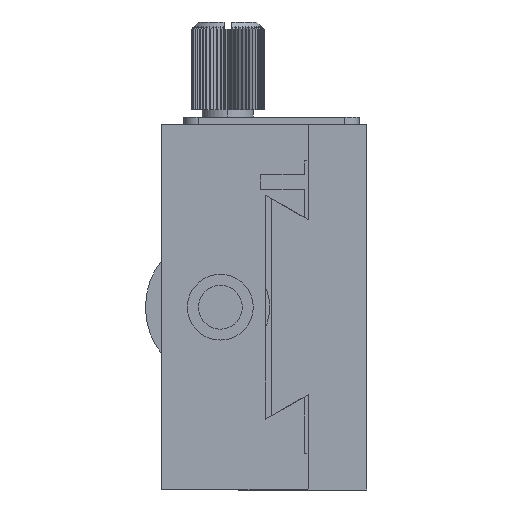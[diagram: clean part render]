
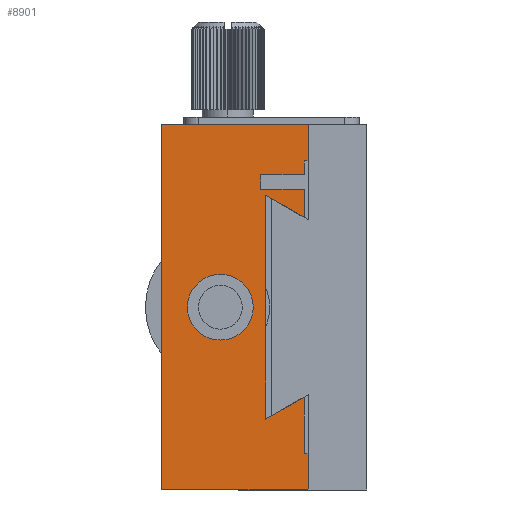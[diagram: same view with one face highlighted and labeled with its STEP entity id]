
A CAD part, left-side view. The second image highlights one B-rep face of the part: STEP entity #8901.
In plain terms, the highlighted planar face has unit normal (-1, 0, 0).
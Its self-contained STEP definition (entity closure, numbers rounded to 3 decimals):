
#139 = EDGE_CURVE ( 'NONE', #11944, #11951, #4894, .T. ) ;
#1978 = AXIS2_PLACEMENT_3D ( 'NONE', #5530, #5534, #5532 ) ;
#2154 = ORIENTED_EDGE ( 'NONE', *, *, #12491, .F. ) ;
#2157 = ORIENTED_EDGE ( 'NONE', *, *, #12490, .T. ) ;
#2160 = ORIENTED_EDGE ( 'NONE', *, *, #12493, .T. ) ;
#2161 = ORIENTED_EDGE ( 'NONE', *, *, #12488, .F. ) ;
#2162 = ORIENTED_EDGE ( 'NONE', *, *, #12486, .T. ) ;
#2164 = ORIENTED_EDGE ( 'NONE', *, *, #12492, .F. ) ;
#2166 = ORIENTED_EDGE ( 'NONE', *, *, #12484, .F. ) ;
#2170 = ORIENTED_EDGE ( 'NONE', *, *, #12481, .T. ) ;
#2177 = ORIENTED_EDGE ( 'NONE', *, *, #12482, .F. ) ;
#2187 = ORIENTED_EDGE ( 'NONE', *, *, #12489, .F. ) ;
#2198 = ORIENTED_EDGE ( 'NONE', *, *, #12448, .F. ) ;
#2199 = ORIENTED_EDGE ( 'NONE', *, *, #12487, .F. ) ;
#2200 = ORIENTED_EDGE ( 'NONE', *, *, #12483, .F. ) ;
#2201 = ORIENTED_EDGE ( 'NONE', *, *, #12462, .T. ) ;
#2203 = ORIENTED_EDGE ( 'NONE', *, *, #12494, .T. ) ;
#2204 = ORIENTED_EDGE ( 'NONE', *, *, #12485, .T. ) ;
#2205 = ORIENTED_EDGE ( 'NONE', *, *, #139, .T. ) ;
#2208 = ORIENTED_EDGE ( 'NONE', *, *, #12463, .F. ) ;
#2755 = EDGE_LOOP ( 'NONE', ( #2170, #2208, #2198, #2177, #2200, #2166, #2204, #2162, #2199, #2161, #2187, #2157, #2154, #2164, #2160, #2203 ) ) ;
#2756 = EDGE_LOOP ( 'NONE', ( #2205, #2201 ) ) ;
#4894 = CIRCLE ( 'NONE', #1978, 4.5 ) ;
#5530 = CARTESIAN_POINT ( 'NONE',  ( -38.891, 9.382, 0. ) ) ;
#5532 = DIRECTION ( 'NONE',  ( 0., 0., -1. ) ) ;
#5534 = DIRECTION ( 'NONE',  ( 1., 0., 0. ) ) ;
#6146 = CARTESIAN_POINT ( 'NONE',  ( -38.891, -2.118, 16.112 ) ) ;
#6147 = CARTESIAN_POINT ( 'NONE',  ( -38.891, 3.882, 16.112 ) ) ;
#6148 = CARTESIAN_POINT ( 'NONE',  ( -38.891, -2.118, -20. ) ) ;
#6149 = CARTESIAN_POINT ( 'NONE',  ( -38.891, -2.118, 12.252 ) ) ;
#6150 = CARTESIAN_POINT ( 'NONE',  ( -38.891, 17.382, -25. ) ) ;
#6151 = CARTESIAN_POINT ( 'NONE',  ( -38.891, -2.118, 20. ) ) ;
#6157 = CARTESIAN_POINT ( 'NONE',  ( -38.891, -2.618, -20. ) ) ;
#6175 = CARTESIAN_POINT ( 'NONE',  ( -38.891, 17.382, 25. ) ) ;
#6298 = CARTESIAN_POINT ( 'NONE',  ( -38.891, 3.882, 18.112 ) ) ;
#6299 = CARTESIAN_POINT ( 'NONE',  ( -38.891, 3.182, 15.312 ) ) ;
#6300 = CARTESIAN_POINT ( 'NONE',  ( -38.891, 3.182, -15.312 ) ) ;
#6306 = CARTESIAN_POINT ( 'NONE',  ( -38.891, -2.618, -25. ) ) ;
#6324 = CARTESIAN_POINT ( 'NONE',  ( -38.891, -2.618, 25. ) ) ;
#6549 = CARTESIAN_POINT ( 'NONE',  ( -38.891, 9.382, 4.5 ) ) ;
#6556 = CARTESIAN_POINT ( 'NONE',  ( -38.891, 9.382, -4.5 ) ) ;
#6933 = AXIS2_PLACEMENT_3D ( 'NONE', #9308, #9313, #9315 ) ;
#7026 = AXIS2_PLACEMENT_3D ( 'NONE', #10333, #10334, #10335 ) ;
#8037 = FACE_OUTER_BOUND ( 'NONE', #2755, .T. ) ;
#8040 = FACE_BOUND ( 'NONE', #2756, .T. ) ;
#8241 = LINE ( 'NONE', #10213, #8296 ) ;
#8296 = VECTOR ( 'NONE', #10268, 1000. ) ;
#8311 = CIRCLE ( 'NONE', #7026, 4.5 ) ;
#8313 = LINE ( 'NONE', #10326, #8315 ) ;
#8315 = VECTOR ( 'NONE', #10327, 1000. ) ;
#8341 = LINE ( 'NONE', #10362, #8352 ) ;
#8347 = LINE ( 'NONE', #10371, #8350 ) ;
#8349 = LINE ( 'NONE', #10365, #8354 ) ;
#8350 = VECTOR ( 'NONE', #10373, 1000. ) ;
#8351 = LINE ( 'NONE', #10372, #8356 ) ;
#8352 = VECTOR ( 'NONE', #10374, 1000. ) ;
#8353 = LINE ( 'NONE', #10375, #8358 ) ;
#8354 = VECTOR ( 'NONE', #10376, 1000. ) ;
#8355 = LINE ( 'NONE', #10377, #8364 ) ;
#8356 = VECTOR ( 'NONE', #10378, 1000. ) ;
#8357 = LINE ( 'NONE', #10381, #8360 ) ;
#8358 = VECTOR ( 'NONE', #10380, 1000. ) ;
#8359 = LINE ( 'NONE', #10383, #8362 ) ;
#8360 = VECTOR ( 'NONE', #10382, 1000. ) ;
#8361 = LINE ( 'NONE', #10379, #8366 ) ;
#8362 = VECTOR ( 'NONE', #10385, 1000. ) ;
#8363 = LINE ( 'NONE', #10384, #8368 ) ;
#8364 = VECTOR ( 'NONE', #10386, 1000. ) ;
#8365 = LINE ( 'NONE', #10387, #8372 ) ;
#8366 = VECTOR ( 'NONE', #10388, 1000. ) ;
#8367 = LINE ( 'NONE', #10390, #8370 ) ;
#8368 = VECTOR ( 'NONE', #10389, 1000. ) ;
#8370 = VECTOR ( 'NONE', #10391, 1000. ) ;
#8371 = LINE ( 'NONE', #10393, #8374 ) ;
#8372 = VECTOR ( 'NONE', #10392, 1000. ) ;
#8373 = LINE ( 'NONE', #10395, #8376 ) ;
#8374 = VECTOR ( 'NONE', #10394, 1000. ) ;
#8376 = VECTOR ( 'NONE', #10396, 1000. ) ;
#8901 = ADVANCED_FACE ( 'NONE', ( #8037, #8040 ), #9307, .T. ) ;
#9307 = PLANE ( 'NONE',  #6933 ) ;
#9308 = CARTESIAN_POINT ( 'NONE',  ( -38.891, 17.382, 25. ) ) ;
#9313 = DIRECTION ( 'NONE',  ( -1., 0., 0. ) ) ;
#9315 = DIRECTION ( 'NONE',  ( 0., 0., 1. ) ) ;
#9777 = CARTESIAN_POINT ( 'NONE',  ( -38.891, -2.118, 18.112 ) ) ;
#9778 = CARTESIAN_POINT ( 'NONE',  ( -38.891, -2.118, -12.252 ) ) ;
#9782 = CARTESIAN_POINT ( 'NONE',  ( -38.891, -2.618, 20. ) ) ;
#9941 = VERTEX_POINT ( 'NONE', #9777 ) ;
#9942 = VERTEX_POINT ( 'NONE', #9778 ) ;
#9946 = VERTEX_POINT ( 'NONE', #9782 ) ;
#10037 = VERTEX_POINT ( 'NONE', #6146 ) ;
#10038 = VERTEX_POINT ( 'NONE', #6147 ) ;
#10039 = VERTEX_POINT ( 'NONE', #6148 ) ;
#10040 = VERTEX_POINT ( 'NONE', #6149 ) ;
#10041 = VERTEX_POINT ( 'NONE', #6150 ) ;
#10042 = VERTEX_POINT ( 'NONE', #6151 ) ;
#10048 = VERTEX_POINT ( 'NONE', #6157 ) ;
#10066 = VERTEX_POINT ( 'NONE', #6175 ) ;
#10213 = CARTESIAN_POINT ( 'NONE',  ( -38.891, -2.618, 25. ) ) ;
#10268 = DIRECTION ( 'NONE',  ( 0., -1., 0. ) ) ;
#10326 = CARTESIAN_POINT ( 'NONE',  ( -38.891, -2.618, 25. ) ) ;
#10327 = DIRECTION ( 'NONE',  ( 0., 0., -1. ) ) ;
#10333 = CARTESIAN_POINT ( 'NONE',  ( -38.891, 9.382, 0. ) ) ;
#10334 = DIRECTION ( 'NONE',  ( 1., 0., 0. ) ) ;
#10335 = DIRECTION ( 'NONE',  ( 0., 0., -1. ) ) ;
#10362 = CARTESIAN_POINT ( 'NONE',  ( -38.891, 17.382, 25. ) ) ;
#10365 = CARTESIAN_POINT ( 'NONE',  ( -38.891, -2.618, -25. ) ) ;
#10371 = CARTESIAN_POINT ( 'NONE',  ( -38.891, -2.618, 20. ) ) ;
#10372 = CARTESIAN_POINT ( 'NONE',  ( -38.891, -2.618, -11.963 ) ) ;
#10373 = DIRECTION ( 'NONE',  ( 0., -1., 0. ) ) ;
#10374 = DIRECTION ( 'NONE',  ( 0., 0., 1. ) ) ;
#10375 = CARTESIAN_POINT ( 'NONE',  ( -38.891, -2.618, -20. ) ) ;
#10376 = DIRECTION ( 'NONE',  ( 0., 1., 0. ) ) ;
#10377 = CARTESIAN_POINT ( 'NONE',  ( -38.891, 3.182, 15.312 ) ) ;
#10378 = DIRECTION ( 'NONE',  ( 0., 0., -1. ) ) ;
#10379 = CARTESIAN_POINT ( 'NONE',  ( -38.891, 3.182, 15.312 ) ) ;
#10380 = DIRECTION ( 'NONE',  ( 0., 1., 0. ) ) ;
#10381 = CARTESIAN_POINT ( 'NONE',  ( -38.891, -2.118, -20. ) ) ;
#10382 = DIRECTION ( 'NONE',  ( 0., 0., 1. ) ) ;
#10383 = CARTESIAN_POINT ( 'NONE',  ( -38.891, 3.182, -15.312 ) ) ;
#10384 = CARTESIAN_POINT ( 'NONE',  ( -38.891, -2.118, 20. ) ) ;
#10385 = DIRECTION ( 'NONE',  ( 0., -0.866, 0.5 ) ) ;
#10386 = DIRECTION ( 'NONE',  ( 0., 0., -1. ) ) ;
#10387 = CARTESIAN_POINT ( 'NONE',  ( -38.891, 3.882, 18.112 ) ) ;
#10388 = DIRECTION ( 'NONE',  ( 0., 0.866, 0.5 ) ) ;
#10389 = DIRECTION ( 'NONE',  ( 0., 0., 1. ) ) ;
#10390 = CARTESIAN_POINT ( 'NONE',  ( -38.891, 3.882, 16.112 ) ) ;
#10391 = DIRECTION ( 'NONE',  ( 0., -1., 0. ) ) ;
#10392 = DIRECTION ( 'NONE',  ( 0., 0., -1. ) ) ;
#10393 = CARTESIAN_POINT ( 'NONE',  ( -38.891, 3.882, 18.112 ) ) ;
#10394 = DIRECTION ( 'NONE',  ( 0., -1., 0. ) ) ;
#10395 = CARTESIAN_POINT ( 'NONE',  ( -38.891, -2.118, 20. ) ) ;
#10396 = DIRECTION ( 'NONE',  ( 0., 0., 1. ) ) ;
#11691 = VERTEX_POINT ( 'NONE', #6298 ) ;
#11692 = VERTEX_POINT ( 'NONE', #6299 ) ;
#11693 = VERTEX_POINT ( 'NONE', #6300 ) ;
#11699 = VERTEX_POINT ( 'NONE', #6306 ) ;
#11717 = VERTEX_POINT ( 'NONE', #6324 ) ;
#11944 = VERTEX_POINT ( 'NONE', #6549 ) ;
#11951 = VERTEX_POINT ( 'NONE', #6556 ) ;
#12448 = EDGE_CURVE ( 'NONE', #10066, #11717, #8241, .T. ) ;
#12462 = EDGE_CURVE ( 'NONE', #11951, #11944, #8311, .T. ) ;
#12463 = EDGE_CURVE ( 'NONE', #11717, #9946, #8313, .T. ) ;
#12481 = EDGE_CURVE ( 'NONE', #10042, #9946, #8347, .T. ) ;
#12482 = EDGE_CURVE ( 'NONE', #10041, #10066, #8341, .T. ) ;
#12483 = EDGE_CURVE ( 'NONE', #11699, #10041, #8349, .T. ) ;
#12484 = EDGE_CURVE ( 'NONE', #10048, #11699, #8351, .T. ) ;
#12485 = EDGE_CURVE ( 'NONE', #10048, #10039, #8353, .T. ) ;
#12486 = EDGE_CURVE ( 'NONE', #10039, #9942, #8357, .T. ) ;
#12487 = EDGE_CURVE ( 'NONE', #11693, #9942, #8359, .T. ) ;
#12488 = EDGE_CURVE ( 'NONE', #11692, #11693, #8355, .T. ) ;
#12489 = EDGE_CURVE ( 'NONE', #10040, #11692, #8361, .T. ) ;
#12490 = EDGE_CURVE ( 'NONE', #10040, #10037, #8363, .T. ) ;
#12491 = EDGE_CURVE ( 'NONE', #10038, #10037, #8367, .T. ) ;
#12492 = EDGE_CURVE ( 'NONE', #11691, #10038, #8365, .T. ) ;
#12493 = EDGE_CURVE ( 'NONE', #11691, #9941, #8371, .T. ) ;
#12494 = EDGE_CURVE ( 'NONE', #9941, #10042, #8373, .T. ) ;
